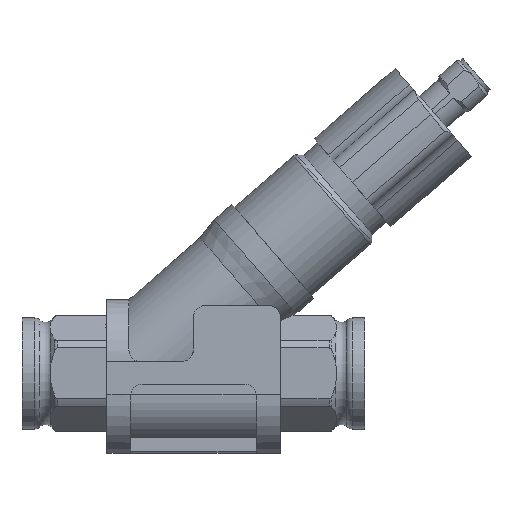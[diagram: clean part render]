
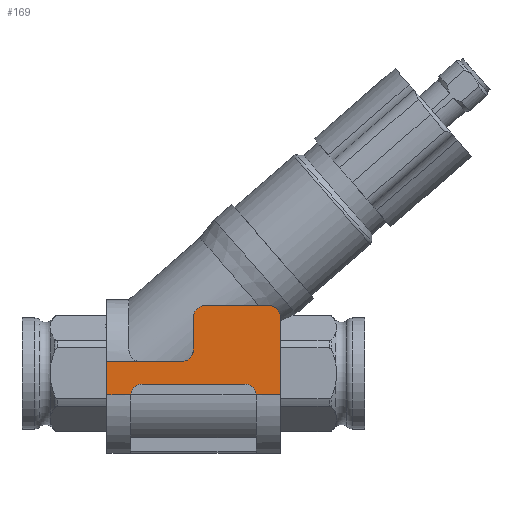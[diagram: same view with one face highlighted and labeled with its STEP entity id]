
A CAD part, top view. The second image highlights one B-rep face of the part: STEP entity #169.
In plain terms, the highlighted planar face has unit normal (0, 0, 1).
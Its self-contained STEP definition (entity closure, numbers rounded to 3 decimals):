
#169 = ADVANCED_FACE( '', ( #454 ), #455, .F. );
#454 = FACE_OUTER_BOUND( '', #830, .T. );
#455 = PLANE( '', #831 );
#830 = EDGE_LOOP( '', ( #1756, #1757, #1758, #1759, #1760, #1761, #1762, #1763, #1764, #1765, #1766, #1767, #1768, #1769, #1770 ) );
#831 = AXIS2_PLACEMENT_3D( '', #1771, #1772, #1773 );
#1756 = ORIENTED_EDGE( '', *, *, #2652, .F. );
#1757 = ORIENTED_EDGE( '', *, *, #2653, .F. );
#1758 = ORIENTED_EDGE( '', *, *, #2362, .F. );
#1759 = ORIENTED_EDGE( '', *, *, #2654, .F. );
#1760 = ORIENTED_EDGE( '', *, *, #2655, .F. );
#1761 = ORIENTED_EDGE( '', *, *, #2640, .T. );
#1762 = ORIENTED_EDGE( '', *, *, #2617, .F. );
#1763 = ORIENTED_EDGE( '', *, *, #2385, .T. );
#1764 = ORIENTED_EDGE( '', *, *, #2630, .F. );
#1765 = ORIENTED_EDGE( '', *, *, #2631, .F. );
#1766 = ORIENTED_EDGE( '', *, *, #2614, .F. );
#1767 = ORIENTED_EDGE( '', *, *, #2639, .T. );
#1768 = ORIENTED_EDGE( '', *, *, #2638, .T. );
#1769 = ORIENTED_EDGE( '', *, *, #2656, .T. );
#1770 = ORIENTED_EDGE( '', *, *, #2366, .F. );
#1771 = CARTESIAN_POINT( '', ( 44.067, 2.947, 16. ) );
#1772 = DIRECTION( '', ( 0., 0., -1. ) );
#1773 = DIRECTION( '', ( -1., 0., 0. ) );
#2362 = EDGE_CURVE( '', #2794, #2788, #2796, .F. );
#2366 = EDGE_CURVE( '', #2802, #2804, #2805, .T. );
#2385 = EDGE_CURVE( '', #2842, #2840, #2843, .F. );
#2614 = EDGE_CURVE( '', #3245, #3243, #3247, .T. );
#2617 = EDGE_CURVE( '', #2842, #3251, #3252, .T. );
#2630 = EDGE_CURVE( '', #3270, #2840, #3272, .T. );
#2631 = EDGE_CURVE( '', #3243, #3270, #3273, .F. );
#2638 = EDGE_CURVE( '', #3284, #3282, #3285, .T. );
#2639 = EDGE_CURVE( '', #3245, #3284, #3286, .T. );
#2640 = EDGE_CURVE( '', #3287, #3251, #3288, .F. );
#2652 = EDGE_CURVE( '', #3307, #2802, #3308, .F. );
#2653 = EDGE_CURVE( '', #2788, #3307, #3309, .T. );
#2654 = EDGE_CURVE( '', #3310, #2794, #3311, .T. );
#2655 = EDGE_CURVE( '', #3287, #3310, #3312, .T. );
#2656 = EDGE_CURVE( '', #3282, #2804, #3313, .T. );
#2788 = VERTEX_POINT( '', #3513 );
#2794 = VERTEX_POINT( '', #3521 );
#2796 = CIRCLE( '', #3526, 3. );
#2802 = VERTEX_POINT( '', #3533 );
#2804 = VERTEX_POINT( '', #3538 );
#2805 = LINE( '', #3539, #3540 );
#2840 = VERTEX_POINT( '', #3650 );
#2842 = VERTEX_POINT( '', #3653 );
#2843 = CIRCLE( '', #3654, 3. );
#3243 = VERTEX_POINT( '', #4697 );
#3245 = VERTEX_POINT( '', #4700 );
#3247 = LINE( '', #4703, #4704 );
#3251 = VERTEX_POINT( '', #4709 );
#3252 = LINE( '', #4710, #4711 );
#3270 = VERTEX_POINT( '', #4738 );
#3272 = LINE( '', #4741, #4742 );
#3273 = CIRCLE( '', #4743, 3. );
#3282 = VERTEX_POINT( '', #4772 );
#3284 = VERTEX_POINT( '', #4774 );
#3285 = LINE( '', #4775, #4776 );
#3286 = B_SPLINE_CURVE_WITH_KNOTS( '', 1, ( #4777, #4778 ), .UNSPECIFIED., .F., .F., ( 2, 2 ), ( 0., 1. ), .UNSPECIFIED. );
#3287 = VERTEX_POINT( '', #4779 );
#3288 = CIRCLE( '', #4780, 3. );
#3307 = VERTEX_POINT( '', #4806 );
#3308 = CIRCLE( '', #4807, 3. );
#3309 = LINE( '', #4808, #4809 );
#3310 = VERTEX_POINT( '', #4810 );
#3311 = LINE( '', #4811, #4812 );
#3312 = LINE( '', #4813, #4814 );
#3313 = LINE( '', #4815, #4816 );
#3513 = CARTESIAN_POINT( '', ( 57.099, -2.73, 16. ) );
#3521 = CARTESIAN_POINT( '', ( 60.092, -5.52, 16. ) );
#3526 = AXIS2_PLACEMENT_3D( '', #5238, #5239, #5240 );
#3533 = CARTESIAN_POINT( '', ( 27.908, -5.52, 16. ) );
#3538 = CARTESIAN_POINT( '', ( 21.767, -5.52, 16. ) );
#3539 = CARTESIAN_POINT( '', ( 44.067, -5.52, 16. ) );
#3540 = VECTOR( '', #5245, 1000. );
#3650 = CARTESIAN_POINT( '', ( 44., 14.429, 16. ) );
#3653 = CARTESIAN_POINT( '', ( 47., 17.429, 16. ) );
#3654 = AXIS2_PLACEMENT_3D( '', #5279, #5280, #5281 );
#4697 = CARTESIAN_POINT( '', ( 41., 3., 16. ) );
#4700 = CARTESIAN_POINT( '', ( 40.801, 3., 16. ) );
#4703 = CARTESIAN_POINT( '', ( 44.067, 3., 16. ) );
#4704 = VECTOR( '', #5646, 1000. );
#4709 = CARTESIAN_POINT( '', ( 63.301, 17.429, 16. ) );
#4710 = CARTESIAN_POINT( '', ( 44.067, 17.429, 16. ) );
#4711 = VECTOR( '', #5651, 1000. );
#4738 = CARTESIAN_POINT( '', ( 44., 6., 16. ) );
#4741 = CARTESIAN_POINT( '', ( 44., 2.947, 16. ) );
#4742 = VECTOR( '', #5668, 1000. );
#4743 = AXIS2_PLACEMENT_3D( '', #5669, #5670, #5671 );
#4772 = CARTESIAN_POINT( '', ( 21.767, 2.947, 16. ) );
#4774 = CARTESIAN_POINT( '', ( 40.801, 2.947, 16. ) );
#4775 = CARTESIAN_POINT( '', ( 44.067, 2.947, 16. ) );
#4776 = VECTOR( '', #5680, 1000. );
#4777 = CARTESIAN_POINT( '', ( 40.801, 3., 16. ) );
#4778 = CARTESIAN_POINT( '', ( 40.801, 2.947, 16. ) );
#4779 = CARTESIAN_POINT( '', ( 66.301, 14.429, 16. ) );
#4780 = AXIS2_PLACEMENT_3D( '', #5681, #5682, #5683 );
#4806 = CARTESIAN_POINT( '', ( 30.901, -2.73, 16. ) );
#4807 = AXIS2_PLACEMENT_3D( '', #5703, #5704, #5705 );
#4808 = CARTESIAN_POINT( '', ( 44.067, -2.73, 16. ) );
#4809 = VECTOR( '', #5706, 1000. );
#4810 = CARTESIAN_POINT( '', ( 66.301, -5.52, 16. ) );
#4811 = CARTESIAN_POINT( '', ( 44.067, -5.52, 16. ) );
#4812 = VECTOR( '', #5707, 1000. );
#4813 = CARTESIAN_POINT( '', ( 66.301, 20., 16. ) );
#4814 = VECTOR( '', #5708, 1000. );
#4815 = CARTESIAN_POINT( '', ( 21.767, 2.947, 16. ) );
#4816 = VECTOR( '', #5709, 1000. );
#5238 = CARTESIAN_POINT( '', ( 57.099, -5.73, 16. ) );
#5239 = DIRECTION( '', ( 0., 0., -1. ) );
#5240 = DIRECTION( '', ( -1., 0., 0. ) );
#5245 = DIRECTION( '', ( -1., 0., 0. ) );
#5279 = CARTESIAN_POINT( '', ( 47., 14.429, 16. ) );
#5280 = DIRECTION( '', ( 0., 0., -1. ) );
#5281 = DIRECTION( '', ( -1., 0., 0. ) );
#5646 = DIRECTION( '', ( 1., 0., 0. ) );
#5651 = DIRECTION( '', ( 1., 0., 0. ) );
#5668 = DIRECTION( '', ( 0., 1., 0. ) );
#5669 = CARTESIAN_POINT( '', ( 41., 6., 16. ) );
#5670 = DIRECTION( '', ( 0., 0., -1. ) );
#5671 = DIRECTION( '', ( -1., 0., 0. ) );
#5680 = DIRECTION( '', ( -1., 0., 0. ) );
#5681 = CARTESIAN_POINT( '', ( 63.301, 14.429, 16. ) );
#5682 = DIRECTION( '', ( 0., 0., -1. ) );
#5683 = DIRECTION( '', ( -1., 0., 0. ) );
#5703 = CARTESIAN_POINT( '', ( 30.901, -5.73, 16. ) );
#5704 = DIRECTION( '', ( 0., 0., -1. ) );
#5705 = DIRECTION( '', ( -1., 0., 0. ) );
#5706 = DIRECTION( '', ( -1., 0., 0. ) );
#5707 = DIRECTION( '', ( -1., 0., 0. ) );
#5708 = DIRECTION( '', ( 0., -1., 0. ) );
#5709 = DIRECTION( '', ( 0., -1., 0. ) );
